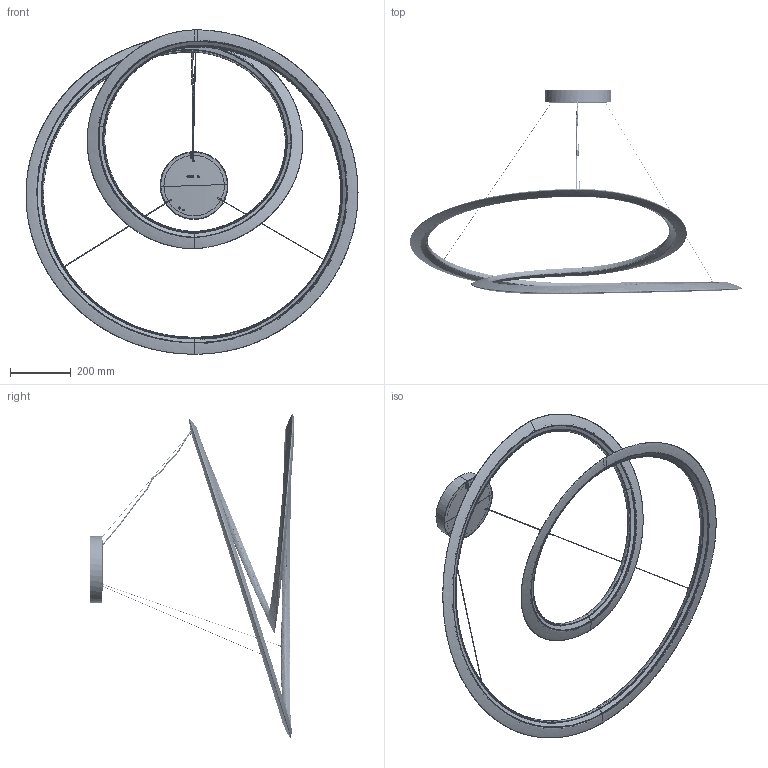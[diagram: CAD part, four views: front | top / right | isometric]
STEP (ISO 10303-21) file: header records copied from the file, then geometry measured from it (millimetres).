
FILE_DESCRIPTION (( 'STEP AP214' ), '1' );
FILE_NAME ('3D_KEPLER_DOWNLIGHT.STEP', '2018-04-06T10:20:11', ( 'Utente' ), ( '' ), 'SwSTEP 2.0', 'SolidWorks 2016', '' );
FILE_SCHEMA (( 'AUTOMOTIVE_DESIGN' ));
Length unit declared in the file: millimetre
Products named in the file (6): 049KEP700100_CORPO KEPLER_DEFINITVODOWN-1^3D_KEPLER_DOWNLIGHT; 052KEP700300_A_DIFFUSORE KEPLER APPLICATODOWN-1^3D_KEPLER_DOWNLIGHT; Group3^3D_KEPLER_DOWNLIGHT; Group2^3D_KEPLER_DOWNLIGHT; Group1^3D_KEPLER_DOWNLIGHT; 3D_KEPLER_DOWNLIGHT
Assembly tree (5 placements, depth 2):
  3D_KEPLER_DOWNLIGHT
    Group1^3D_KEPLER_DOWNLIGHT
    Group2^3D_KEPLER_DOWNLIGHT
    Group3^3D_KEPLER_DOWNLIGHT
    052KEP700300_A_DIFFUSORE KEPLER APPLICATODOWN-1^3D_KEPLER_DOWNLIGHT
    049KEP700100_CORPO KEPLER_DEFINITVODOWN-1^3D_KEPLER_DOWNLIGHT
Bounding box: 1096.15 x 676.33 x 1070.77 mm (x, y, z)
Volume: 4809304.1 mm3; surface area: 1345392.8 mm2
Topology: 11 solids, 11 shells, 300 faces, 830 edges, 557 vertices
Faces by surface type: plane 139, bspline 112, cylinder 33, sphere 8, torus 4, cone 4
Entity records: 31652 total; most frequent: CARTESIAN_POINT 24368, ORIENTED_EDGE 1660, DIRECTION 1130, EDGE_CURVE 830, VERTEX_POINT 557, AXIS2_PLACEMENT_3D 429, B_SPLINE_CURVE_WITH_KNOTS 324, EDGE_LOOP 313
